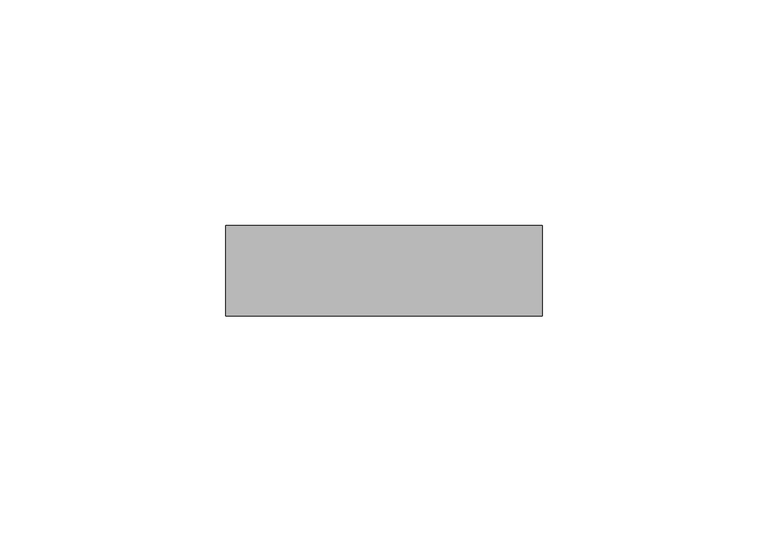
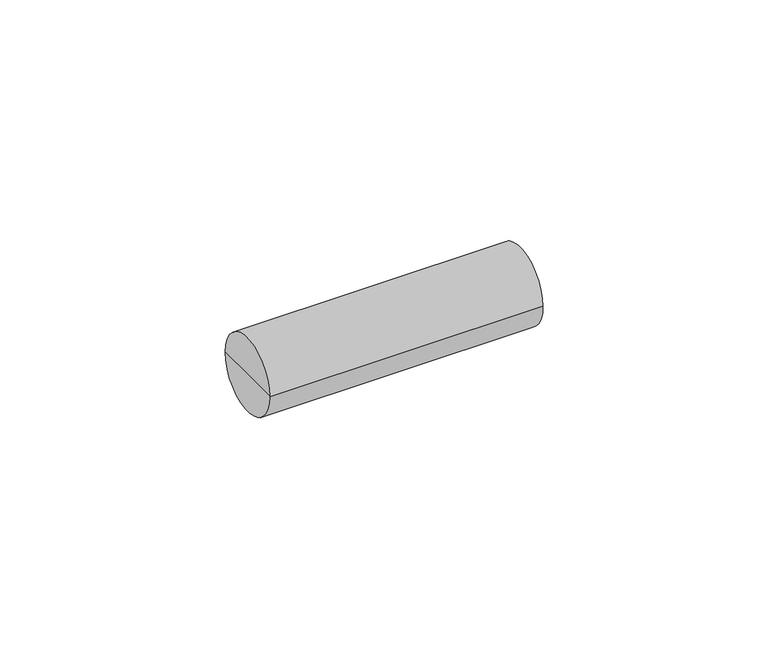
"""IFC4 building model written with IfcOpenShell, lengths in millimetres: cable carrier fitting geometry, Муфта_соед._для_труб : Муфта соед. для труб 16мм (10шт)."""

import ifcopenshell
import ifcopenshell.guid

model = None  # the IFC model being written
_history = None  # IfcOwnerHistory: only IFC2X3 demands one
_inside = {}  # id of a spatial element -> (the spatial element, [elements in it])
_under = {}  # id of a project, library or spatial element -> (it, [spatial elements below it])
_declared = {}  # id of a project -> (the project, [libraries it declares])
_typed = {}  # id of a type object -> (the type object, [elements of that type])
_made_of = {}  # id of a material, layer set ... -> (it, [elements and type objects made of it])


def new_model(schema):
    """Start an empty IFC model of exactly this schema.

    Asked for "IFC4X3", IfcOpenShell would pick the latest addendum, in which some entities
    have other attributes; the version numbers below select the first issue.
    IFC2X3 requires an IfcOwnerHistory on every rooted entity: one is made here for all.
    """
    global model, _history
    if schema == "IFC4X3":
        model = ifcopenshell.file(schema_version=(4, 3, 0, 0))
    else:
        model = ifcopenshell.file(schema=schema)
    _inside.clear()
    _under.clear()
    _declared.clear()
    _typed.clear()
    _made_of.clear()
    _history = None
    if model.schema == "IFC2X3":
        org = make("IfcOrganization", Name="unknown")
        user = make(
            "IfcPersonAndOrganization",
            ThePerson=make("IfcPerson", FamilyName="unknown"),
            TheOrganization=org,
        )
        app = make(
            "IfcApplication",
            ApplicationDeveloper=org,
            Version="unknown",
            ApplicationFullName="unknown",
            ApplicationIdentifier="unknown",
        )
        _history = make(
            "IfcOwnerHistory",
            OwningUser=user,
            OwningApplication=app,
            ChangeAction="ADDED",
            CreationDate=0,
        )
    return model


def make(cls, **values):
    """One entity of the class cls with the attributes given. An attribute that is None is left unset."""
    return model.create_entity(
        cls, **{name: value for name, value in values.items() if value is not None}
    )


def rooted(cls, **values):
    """An entity with a GlobalId (a new one), such as an element, a storey or a relation."""
    return make(cls, GlobalId=ifcopenshell.guid.new(), OwnerHistory=_history, **values)


def si_unit(unit_type, name, prefix=None):
    """IfcSIUnit, for example si_unit("LENGTHUNIT", "METRE", prefix="MILLI")."""
    return make("IfcSIUnit", UnitType=unit_type, Prefix=prefix, Name=name)


def assignment(units):
    """IfcUnitAssignment: the units of a project."""
    return None if units is None else make("IfcUnitAssignment", Units=units)


def point(xyz):
    """IfcCartesianPoint."""
    return None if xyz is None else make("IfcCartesianPoint", Coordinates=xyz)


def direction(xyz):
    """IfcDirection."""
    return None if xyz is None else make("IfcDirection", DirectionRatios=xyz)


def frame(location, z_axis=None, x_axis=None):
    """IfcAxis2Placement3D, a coordinate frame: its origin and axes. An axis left out is left unset."""
    return make(
        "IfcAxis2Placement3D",
        Location=point(location),
        Axis=direction(z_axis),
        RefDirection=direction(x_axis),
    )


def origin():
    """The frame at (0, 0, 0) with its axes left unset."""
    return frame((0.0, 0.0, 0.0))


def place(relative_to, where):
    """IfcLocalPlacement: puts the frame where relative to a parent placement (None: the world)."""
    return make(
        "IfcLocalPlacement", PlacementRelTo=relative_to, RelativePlacement=where
    )


def context(
    kind, dimensions, precision=None, world=None, true_north=None, identifier=None
):
    """IfcGeometricRepresentationContext, for example the 3D "Model" context."""
    return make(
        "IfcGeometricRepresentationContext",
        ContextIdentifier=identifier,
        ContextType=kind,
        CoordinateSpaceDimension=dimensions,
        Precision=precision,
        WorldCoordinateSystem=world,
        TrueNorth=true_north,
    )


def project(units=None, contexts=None):
    """IfcProject with its units and contexts."""
    return rooted(
        "IfcProject",
        Name="project",
        RepresentationContexts=contexts,
        UnitsInContext=assignment(units),
    )


def spatial(cls, under=None, at=None, **own):
    """A site, building, storey or space (cls), placed at a placement, below another one or the project."""
    s = rooted(cls, ObjectPlacement=at, **own)
    if under is not None:
        _under.setdefault(under.id(), (under, []))[1].append(s)
    return s


def circle_curve(where, radius):
    """IfcCircle in the frame where."""
    return make("IfcCircle", Position=where, Radius=radius)


def shape(context_of_items, identifier, shape_type, items):
    """IfcShapeRepresentation: the items that make up one representation, for example the "Body"."""
    return make(
        "IfcShapeRepresentation",
        ContextOfItems=context_of_items,
        RepresentationIdentifier=identifier,
        RepresentationType=shape_type,
        Items=items,
    )


def source(mapping_origin, context_of_items, identifier, shape_type, items):
    """IfcRepresentationMap: a shape defined once, which mapped items show again and again."""
    return make(
        "IfcRepresentationMap",
        MappingOrigin=mapping_origin,
        MappedRepresentation=shape(context_of_items, identifier, shape_type, items),
    )


def transform(
    local_origin,
    x_axis=None,
    y_axis=None,
    z_axis=None,
    scale=None,
    scale2=None,
    scale3=None,
    uniform=True,
):
    """IfcCartesianTransformationOperator3D, or its non-uniform kind. x_axis, y_axis, z_axis: its Axis1, 2, 3."""
    if uniform:
        return make(
            "IfcCartesianTransformationOperator3D",
            Axis1=direction(x_axis),
            Axis2=direction(y_axis),
            LocalOrigin=point(local_origin),
            Scale=scale,
            Axis3=direction(z_axis),
        )
    return make(
        "IfcCartesianTransformationOperator3DnonUniform",
        Axis1=direction(x_axis),
        Axis2=direction(y_axis),
        LocalOrigin=point(local_origin),
        Scale=scale,
        Axis3=direction(z_axis),
        Scale2=scale2,
        Scale3=scale3,
    )


def mapped(mapping_source, mapping_target):
    """IfcMappedItem: shows the shape of a source again, moved by a transform."""
    return make(
        "IfcMappedItem", MappingSource=mapping_source, MappingTarget=mapping_target
    )


def made_of(thing, what):
    """Note that an element or type object is made of a material, layer set ...; save() writes the relation."""
    if what is not None:
        _made_of.setdefault(what.id(), (what, []))[1].append(thing)
    return thing


def element(
    cls,
    number,
    at=None,
    inside=None,
    cuts=None,
    type_object=None,
    material=None,
    context=None,
    identifier="Body",
    shape_type=None,
    held_by="IfcProductDefinitionShape",
    body=None,
    shapes=None,
    **own,
):
    """One element of the class cls, such as IfcWall. Its Tag is "e" and its number.

    at: its placement. inside: the storey or other place that contains it. cuts: it is an
    opening in that element (IfcRelVoidsElement). A single representation is given by context,
    identifier, shape_type and body (its items); several are given by shapes. held_by: the class
    of the entity that holds the representations. save() writes the other relations.
    """
    e = rooted(cls, Tag="e%d" % number, ObjectPlacement=at, **own)
    if body is not None:
        shapes = [shape(context, identifier, shape_type, body)]
    if shapes is not None:
        e.Representation = make(held_by, Representations=shapes)
    if inside is not None:
        _inside.setdefault(inside.id(), (inside, []))[1].append(e)
    if cuts is not None:
        rooted(
            "IfcRelVoidsElement", RelatingBuildingElement=cuts, RelatedOpeningElement=e
        )
    if type_object is not None:
        _typed.setdefault(type_object.id(), (type_object, []))[1].append(e)
    return made_of(e, material)


def aggregate(whole, parts):
    """IfcRelAggregates: a whole, such as a stair, and the parts it consists of."""
    return rooted("IfcRelAggregates", RelatingObject=whole, RelatedObjects=parts)


def save(model, path):
    """Write the relations noted so far, then the file.

    IfcRelAggregates (storeys below a building ...), IfcRelContainedInSpatialStructure (elements
    in a storey), IfcRelDefinesByType, IfcRelAssociatesMaterial and IfcRelDeclares: one each for
    every whole, place, type object, material and project.
    """
    for whole, parts in _under.values():
        aggregate(whole, parts)
    for where, things in _inside.values():
        rooted(
            "IfcRelContainedInSpatialStructure",
            RelatedElements=things,
            RelatingStructure=where,
        )
    for kind, things in _typed.values():
        rooted("IfcRelDefinesByType", RelatedObjects=things, RelatingType=kind)
    for what, things in _made_of.values():
        rooted("IfcRelAssociatesMaterial", RelatedObjects=things, RelatingMaterial=what)
    for by, libraries in _declared.values():
        rooted("IfcRelDeclares", RelatingContext=by, RelatedDefinitions=libraries)
    model.write(path)


def plane_surface(at):
    """IfcPlane: the flat surface through the origin of the frame at, square to its z axis."""
    return make("IfcPlane", Position=at)


def cylinder_surface(at, radius):
    """IfcCylindricalSurface: all points at the distance radius from the z axis of the frame at."""
    return make("IfcCylindricalSurface", Position=at, Radius=radius)


def advanced_brep(points, edges, surfaces, faces):
    """IfcAdvancedBrep: a solid bounded by faces that lie on surfaces and meet in shared edges.

    An edge is (start, end): straight between two places in points (the first is 0);
    or (start, end, curve); or (start, end, curve, False) where it runs against its curve.
    A face is (place in surfaces, loops), or (place, loops, False) where it looks against
    its surface's normal. A loop lists edges by number (the first is 1), with a minus sign
    where the edge is run from its end to its start. The first loop is the outer one.
    """
    corners = [point(p) for p in points]
    vertices = [make("IfcVertexPoint", VertexGeometry=c) for c in corners]
    made = []
    for start, end, *more in edges:
        made.append(
            make(
                "IfcEdgeCurve",
                EdgeStart=vertices[start],
                EdgeEnd=vertices[end],
                EdgeGeometry=more[0] if more else make("IfcPolyline", Points=[corners[start], corners[end]]),
                SameSense=more[1] if len(more) > 1 else True,
            )
        )
    hull = []
    for where, loops, *sense in faces:
        bounds = []
        for j, loop in enumerate(loops):
            ring = [make("IfcOrientedEdge", EdgeElement=made[abs(k) - 1], Orientation=k > 0) for k in loop]
            bounds.append(
                make(
                    "IfcFaceOuterBound" if j == 0 else "IfcFaceBound",
                    Bound=make("IfcEdgeLoop", EdgeList=ring),
                    Orientation=True,
                )
            )
        hull.append(make("IfcAdvancedFace", Bounds=bounds, FaceSurface=surfaces[where], SameSense=sense[0] if sense else True))
    return make("IfcAdvancedBrep", Outer=make("IfcClosedShell", CfsFaces=hull))


def cable_carrier_fitting_016265ef(model_context):
    return source(origin(), model_context, "Body", "AdvancedBrep", [
        advanced_brep(
        [(-35.0, -10.0, 0.0), (-35.0, 10.0, 0.0), (35.0, 10.0, 0.0), (35.0, -10.0, 0.0), (-35.0, 0.0, 0.0), (35.0, 0.0, 0.0)],
        [
            (0, 1, circle_curve(frame((-35.0, 0.0, 0.0), z_axis=(1.0, 0.0, 0.0), x_axis=(0.0, 1.0, 0.0)), 10.0)),
            (1, 2),
            (2, 3, circle_curve(frame((35.0, 0.0, 0.0), z_axis=(-1.0, 0.0, 0.0), x_axis=(0.0, 1.0, 0.0)), 10.0)),
            (3, 0),
            (1, 0, circle_curve(frame((-35.0, 0.0, 0.0), z_axis=(1.0, 0.0, 0.0), x_axis=(0.0, 1.0, 0.0)), 10.0)),
            (3, 2, circle_curve(frame((35.0, 0.0, 0.0), z_axis=(-1.0, 0.0, 0.0), x_axis=(0.0, 1.0, 0.0)), 10.0)),
            (4, 1),
            (0, 4),
            (2, 5),
            (5, 3),
        ],
        [
            cylinder_surface(frame((1960.0, 0.0, 0.0), z_axis=(-1.0, 0.0, 0.0), x_axis=(0.0, 1.0, 0.0)), 10.0),
            plane_surface(frame((-35.0, 0.0, 0.0), z_axis=(-1.0, 0.0, 0.0), x_axis=(0.0, 1.0, 0.0))),
            plane_surface(frame((35.0, 0.0, 0.0), z_axis=(1.0, 0.0, 0.0), x_axis=(0.0, 1.0, 0.0))),
        ],
        [
            (0, [[1, 2, 3, 4]]),
            (0, [[5, -4, 6, -2]]),
            (1, [[7, -1, 8]]),
            (1, [[-8, -5, -7]]),
            (2, [[-3, 9, 10]]),
            (2, [[-6, -10, -9]]),
        ],
    ),
    ])


if __name__ == "__main__":
    model = new_model("IFC4")
    model_context = context("Model", 3, world=origin())
    ifc_project = project(units=[si_unit("LENGTHUNIT", "METRE", prefix="MILLI")], contexts=[model_context])
    site = spatial("IfcSite", under=ifc_project)
    building = spatial("IfcBuilding", under=site)
    placement = place(None, origin())
    cable_carrier_fitting_shape = cable_carrier_fitting_016265ef(model_context)
    element("IfcCableCarrierFitting", 1, ObjectType="Муфта_соед._для_труб : Муфта соед. для труб 16мм (10шт)", at=placement, inside=building, context=model_context, shape_type="MappedRepresentation", body=[
        mapped(cable_carrier_fitting_shape, transform((0.0, 0.0, 0.0), x_axis=(1.0, 0.0, 0.0), y_axis=(0.0, 1.0, 0.0), z_axis=(0.0, 0.0, 1.0))),
    ])
    save(model, "model.ifc")
